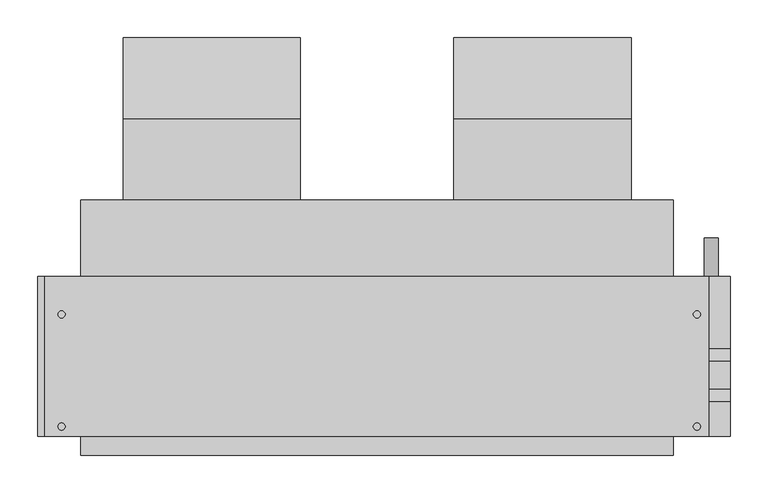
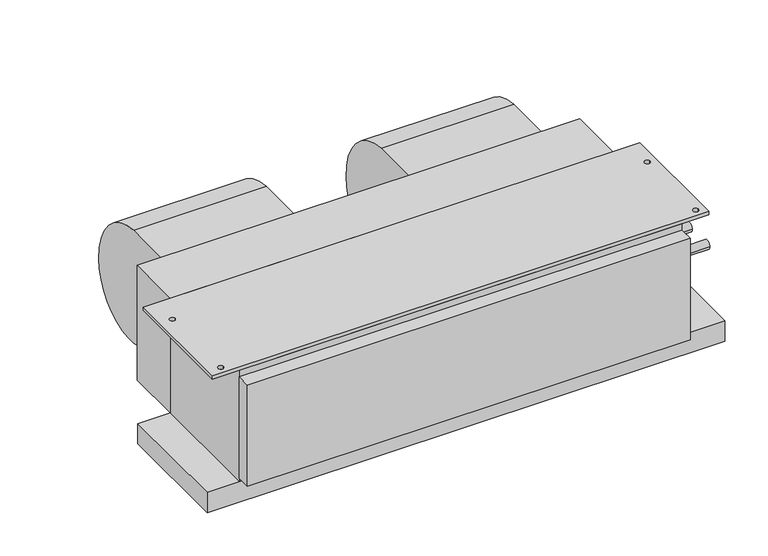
"""IFC4 building model written with IfcOpenShell, lengths in millimetres: proxy geometry, Concealed_Horizontal_Fan_Coil_Unit_-_42CAA_-_CARRIER_-_2-Pipe_Cool-EHeat_RH_2022 : Size 06 - 277v/60Hz/1Ph - 4 Row 6.0kW."""

from ifc_helpers import new_model, si_unit, point, frame, frame_2d, origin, place, context, project, spatial, polyline, circle_curve, trimmed, segment, composite_curve, outline, extrude, source, transform, mapped, element, save


def mechanical_equipment_8f95228b(model_context):
    return source(origin(), model_context, "Body", "SweptSolid", [
        extrude(outline(composite_curve([segment(trimmed(circle_curve(frame_2d((68.401169, -136.0299844)), 117.3559541), [point((77.7875, -19.05))], [point((185.7375, -138.176))], False, "CARTESIAN"), True, "CONTINUOUS"), segment(trimmed(circle_curve(frame_2d((90.0022663, -136.4250563)), 95.7512443), [point((185.7375, -138.176))], [point((77.7875, -231.394))], False, "CARTESIAN"), True, "CONTINUOUS"), segment(trimmed(circle_curve(frame_2d((89.9711869, -136.6666968)), 95.5076133), [point((77.7875, -231.394))], [point((-5.5245, -138.176))], False, "CARTESIAN"), True, "CONTINUOUS"), segment(trimmed(circle_curve(frame_2d((-24.6059828, -138.4775816)), 19.0838659), [point((-5.5245, -138.176))], [point((-17.7963373, -120.65))], True, "CARTESIAN"), True, "CONTINUOUS"), segment(polyline([(-17.7963373, -120.65), (-30.1625, -120.65), (-30.1625, -19.05), (77.7875, -19.05)]), True, "CONTINUOUS")], self_intersect=False)), frame((254.8255, 0.0, 0.0), z_axis=(1.0, 0.0, 0.0), x_axis=(0.0, 1.0, 0.0)), (0.0, 0.0, 1.0), 235.712),
        extrude(outline(composite_curve([segment(trimmed(circle_curve(frame_2d((68.401169, -136.0299844)), 117.3559541), [point((77.7875, -19.05))], [point((185.7375, -138.176))], False, "CARTESIAN"), True, "CONTINUOUS"), segment(trimmed(circle_curve(frame_2d((90.0022663, -136.4250563)), 95.7512443), [point((185.7375, -138.176))], [point((77.7875, -231.394))], False, "CARTESIAN"), True, "CONTINUOUS"), segment(trimmed(circle_curve(frame_2d((89.9711869, -136.6666968)), 95.5076133), [point((77.7875, -231.394))], [point((-5.5245, -138.176))], False, "CARTESIAN"), True, "CONTINUOUS"), segment(trimmed(circle_curve(frame_2d((-24.6059828, -138.4775816)), 19.0838659), [point((-5.5245, -138.176))], [point((-17.7963373, -120.65))], True, "CARTESIAN"), True, "CONTINUOUS"), segment(polyline([(-17.7963373, -120.65), (-30.1625, -120.65), (-30.1625, -19.05), (77.7875, -19.05)]), True, "CONTINUOUS")], self_intersect=False)), frame((-184.912, 0.0, 0.0), z_axis=(1.0, 0.0, 0.0), x_axis=(0.0, 1.0, 0.0)), (0.0, 0.0, 1.0), 235.712),
        extrude(outline(polyline([(593.725, -131.7625), (593.725, -344.4875), (-288.925, -344.4875), (-288.925, -131.7625), (593.725, -131.7625)]), holes=[composite_curve([segment(trimmed(circle_curve(frame_2d((-266.7, -182.5625)), 4.7625), [point((-271.4625, -182.5625))], [point((-261.9375, -182.5625))], True, "CARTESIAN"), True, "CONTINUOUS"), segment(trimmed(circle_curve(frame_2d((-266.7, -182.5625)), 4.7625), [point((-261.9375, -182.5625))], [point((-271.4625, -182.5625))], True, "CARTESIAN"), True, "CONTINUOUS")], self_intersect=False), composite_curve([segment(trimmed(circle_curve(frame_2d((-266.7, -331.7875)), 4.7625), [point((-271.4625, -331.7875))], [point((-261.9375, -331.7875))], True, "CARTESIAN"), True, "CONTINUOUS"), segment(trimmed(circle_curve(frame_2d((-266.7, -331.7875)), 4.7625), [point((-261.9375, -331.7875))], [point((-271.4625, -331.7875))], True, "CARTESIAN"), True, "CONTINUOUS")], self_intersect=False), composite_curve([segment(trimmed(circle_curve(frame_2d((577.85, -182.5625)), 4.7625), [point((573.0875, -182.5625))], [point((582.6125, -182.5625))], True, "CARTESIAN"), True, "CONTINUOUS"), segment(trimmed(circle_curve(frame_2d((577.85, -182.5625)), 4.7625), [point((582.6125, -182.5625))], [point((573.0875, -182.5625))], True, "CARTESIAN"), True, "CONTINUOUS")], self_intersect=False), composite_curve([segment(trimmed(circle_curve(frame_2d((577.85, -331.7875)), 4.7625), [point((573.0875, -331.7875))], [point((582.6125, -331.7875))], True, "CARTESIAN"), True, "CONTINUOUS"), segment(trimmed(circle_curve(frame_2d((577.85, -331.7875)), 4.7625), [point((582.6125, -331.7875))], [point((573.0875, -331.7875))], True, "CARTESIAN"), True, "CONTINUOUS")], self_intersect=False)]), frame((0.0, 0.0, -6.35), z_axis=(0.0, 0.0, 1.0), x_axis=(1.0, 0.0, 0.0)), (0.0, 0.0, 1.0), 6.35),
        extrude(outline(polyline([(-241.3, -30.1625), (546.1, -30.1625), (546.1, -131.7625), (-241.3, -131.7625), (-241.3, -30.1625)])), frame((0.0, 0.0, -215.9), z_axis=(0.0, 0.0, 1.0), x_axis=(1.0, 0.0, 0.0)), (0.0, 0.0, 1.0), 215.9),
        extrude(outline(composite_curve([segment(trimmed(circle_curve(frame_2d((-241.3, 596.9)), 9.525), [point((-241.3, 587.375))], [point((-241.3, 606.425))], False, "CARTESIAN"), True, "CONTINUOUS"), segment(trimmed(circle_curve(frame_2d((-241.3, 596.9)), 9.525), [point((-241.3, 606.425))], [point((-241.3, 587.375))], False, "CARTESIAN"), True, "CONTINUOUS")], self_intersect=False)), frame((0.0, -131.7625, 0.0), z_axis=(0.0, 1.0, 0.0), x_axis=(0.0, 0.0, 1.0)), (0.0, 0.0, 1.0), 50.8),
        extrude(outline(polyline([(546.1, -369.8875), (-241.3, -369.8875), (-241.3, -344.4875), (546.1, -344.4875), (546.1, -369.8875)])), frame((0.0, 0.0, -209.55), z_axis=(0.0, 0.0, 1.0), x_axis=(1.0, 0.0, 0.0)), (0.0, 0.0, 1.0), 190.5),
        extrude(outline(polyline([(622.3, -131.7625), (622.3, -344.4875), (-298.45, -344.4875), (-298.45, -131.7625), (622.3, -131.7625)])), frame((0.0, 0.0, -254.0), z_axis=(0.0, 0.0, 1.0), x_axis=(1.0, 0.0, 0.0)), (0.0, 0.0, 1.0), 38.1),
        extrude(outline(composite_curve([segment(trimmed(circle_curve(frame_2d((-290.5125, -104.775)), 7.9375), [point((-298.45, -104.775))], [point((-282.575, -104.775))], False, "CARTESIAN"), True, "CONTINUOUS"), segment(trimmed(circle_curve(frame_2d((-290.5125, -104.775)), 7.9375), [point((-282.575, -104.775))], [point((-298.45, -104.775))], False, "CARTESIAN"), True, "CONTINUOUS")], self_intersect=False)), frame((546.1, 0.0, 0.0), z_axis=(1.0, 0.0, 0.0), x_axis=(0.0, 1.0, 0.0)), (0.0, 0.0, 1.0), 76.2),
        extrude(outline(composite_curve([segment(trimmed(circle_curve(frame_2d((-236.5375, -104.775)), 7.9375), [point((-244.475, -104.775))], [point((-228.6, -104.775))], False, "CARTESIAN"), True, "CONTINUOUS"), segment(trimmed(circle_curve(frame_2d((-236.5375, -104.775)), 7.9375), [point((-228.6, -104.775))], [point((-244.475, -104.775))], False, "CARTESIAN"), True, "CONTINUOUS")], self_intersect=False)), frame((546.1, 0.0, 0.0), z_axis=(1.0, 0.0, 0.0), x_axis=(0.0, 1.0, 0.0)), (0.0, 0.0, 1.0), 76.2),
        extrude(outline(polyline([(546.1, -344.4875), (-241.3, -344.4875), (-241.3, -131.7625), (546.1, -131.7625), (546.1, -344.4875)])), frame((0.0, 0.0, -215.9), z_axis=(0.0, 0.0, 1.0), x_axis=(1.0, 0.0, 0.0)), (0.0, 0.0, 1.0), 209.55),
    ])


if __name__ == "__main__":
    model = new_model("IFC4")
    model_context = context("Model", 3, world=origin())
    ifc_project = project(units=[si_unit("LENGTHUNIT", "METRE", prefix="MILLI")], contexts=[model_context])
    site = spatial("IfcSite", under=ifc_project)
    building = spatial("IfcBuilding", under=site)
    placement = place(None, origin())
    mechanical_equipment_shape = mechanical_equipment_8f95228b(model_context)
    element("IfcBuildingElementProxy", 1, Name="Concealed_Horizontal_Fan_Coil_Unit_-_42CAA_-_CARRIER_-_2-Pipe_Cool-EHeat_RH_2022 : Size 06 - 277v/60Hz/1Ph - 4 Row 6.0kW", ObjectType="Concealed_Horizontal_Fan_Coil_Unit_-_42CAA_-_CARRIER_-_2-Pipe_Cool-EHeat_RH_2022 : Size 06 - 277v/60Hz/1Ph - 4 Row 6.0kW", at=placement, inside=building, context=model_context, shape_type="MappedRepresentation", body=[
        mapped(mechanical_equipment_shape, transform((0.0, 0.0, 0.0), x_axis=(1.0, 0.0, 0.0), y_axis=(0.0, 1.0, 0.0), z_axis=(0.0, 0.0, 1.0))),
    ])
    save(model, "model.ifc")
